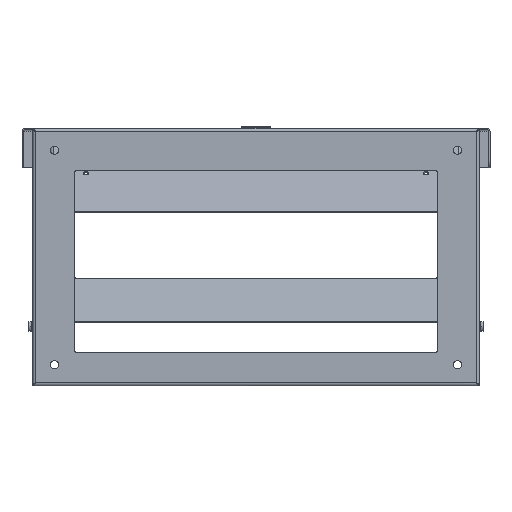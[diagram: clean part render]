
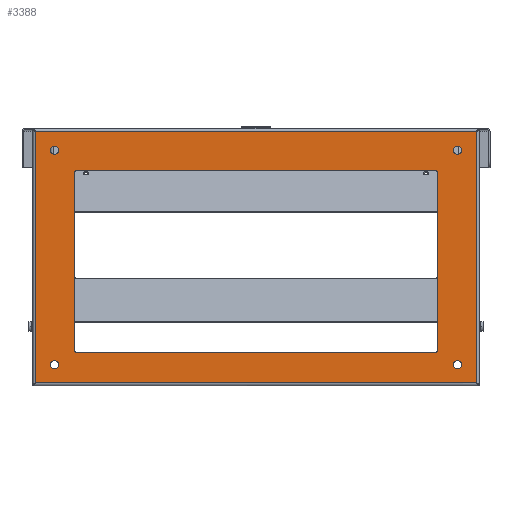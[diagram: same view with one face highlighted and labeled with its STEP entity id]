
A CAD part, front view. The second image highlights one B-rep face of the part: STEP entity #3388.
In plain terms, the highlighted planar face has unit normal (0, -1, 0).
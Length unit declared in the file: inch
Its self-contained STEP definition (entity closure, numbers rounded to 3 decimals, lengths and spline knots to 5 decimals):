
#183=DIRECTION('',(0.,0.,1.));
#184=VECTOR('',#183,9.68225);
#185=CARTESIAN_POINT('',(8.48175,-0.85938,-4.84113));
#186=LINE('',#185,#184);
#245=DIRECTION('',(-1.,0.,0.));
#246=VECTOR('',#245,13.8125);
#247=CARTESIAN_POINT('',(6.90625,-0.85938,3.32813));
#248=LINE('',#247,#246);
#252=DIRECTION('',(0.,0.,-1.));
#253=VECTOR('',#252,6.875);
#254=CARTESIAN_POINT('',(-6.96875,-0.85938,3.26563));
#255=LINE('',#254,#253);
#259=DIRECTION('',(1.,0.,0.));
#260=VECTOR('',#259,13.8125);
#261=CARTESIAN_POINT('',(-6.90625,-0.85938,-3.67188));
#262=LINE('',#261,#260);
#266=DIRECTION('',(0.,0.,1.));
#267=VECTOR('',#266,6.875);
#268=CARTESIAN_POINT('',(6.96875,-0.85938,-3.60938));
#269=LINE('',#268,#267);
#273=CARTESIAN_POINT('',(7.75,-0.85938,-4.14063));
#274=DIRECTION('',(0.,1.,0.));
#275=DIRECTION('',(1.,0.,0.));
#276=AXIS2_PLACEMENT_3D('',#273,#274,#275);
#281=CARTESIAN_POINT('',(7.75,-0.85938,-4.14063));
#282=DIRECTION('',(0.,1.,0.));
#283=DIRECTION('',(-1.,0.,0.));
#284=AXIS2_PLACEMENT_3D('',#281,#282,#283);
#289=CARTESIAN_POINT('',(-7.75,-0.85938,-4.14063));
#290=DIRECTION('',(0.,1.,0.));
#291=DIRECTION('',(1.,0.,0.));
#292=AXIS2_PLACEMENT_3D('',#289,#290,#291);
#297=CARTESIAN_POINT('',(-7.75,-0.85938,-4.14063));
#298=DIRECTION('',(0.,1.,0.));
#299=DIRECTION('',(-1.,0.,0.));
#300=AXIS2_PLACEMENT_3D('',#297,#298,#299);
#305=CARTESIAN_POINT('',(-7.75,-0.85938,4.10938));
#306=DIRECTION('',(0.,1.,0.));
#307=DIRECTION('',(1.,0.,0.));
#308=AXIS2_PLACEMENT_3D('',#305,#306,#307);
#313=CARTESIAN_POINT('',(-7.75,-0.85938,4.10938));
#314=DIRECTION('',(0.,1.,0.));
#315=DIRECTION('',(-1.,0.,0.));
#316=AXIS2_PLACEMENT_3D('',#313,#314,#315);
#321=CARTESIAN_POINT('',(7.75,-0.85938,4.10938));
#322=DIRECTION('',(0.,1.,0.));
#323=DIRECTION('',(1.,0.,0.));
#324=AXIS2_PLACEMENT_3D('',#321,#322,#323);
#329=CARTESIAN_POINT('',(7.75,-0.85938,4.10938));
#330=DIRECTION('',(0.,1.,0.));
#331=DIRECTION('',(-1.,0.,0.));
#332=AXIS2_PLACEMENT_3D('',#329,#330,#331);
#351=CARTESIAN_POINT('',(6.90625,-0.85938,3.26563));
#352=DIRECTION('',(0.,1.,0.));
#353=DIRECTION('',(0.,0.,1.));
#354=AXIS2_PLACEMENT_3D('',#351,#352,#353);
#381=CARTESIAN_POINT('',(6.90625,-0.85938,-3.60938));
#382=DIRECTION('',(0.,1.,0.));
#383=DIRECTION('',(1.,0.,0.));
#384=AXIS2_PLACEMENT_3D('',#381,#382,#383);
#411=CARTESIAN_POINT('',(-6.90625,-0.85938,-3.60938));
#412=DIRECTION('',(0.,1.,0.));
#413=DIRECTION('',(0.,0.,-1.));
#414=AXIS2_PLACEMENT_3D('',#411,#412,#413);
#441=CARTESIAN_POINT('',(-6.90625,-0.85938,3.26563));
#442=DIRECTION('',(0.,1.,0.));
#443=DIRECTION('',(-1.,0.,0.));
#444=AXIS2_PLACEMENT_3D('',#441,#442,#443);
#825=DIRECTION('',(0.,0.,1.));
#826=VECTOR('',#825,9.68225);
#827=CARTESIAN_POINT('',(-8.48175,-0.85938,-4.84113));
#828=LINE('',#827,#826);
#1508=DIRECTION('',(1.,0.,0.));
#1509=VECTOR('',#1508,16.9635);
#1510=CARTESIAN_POINT('',(-8.48175,-0.85938,4.84113));
#1511=LINE('',#1510,#1509);
#2235=DIRECTION('',(1.,0.,0.));
#2236=VECTOR('',#2235,16.9635);
#2237=CARTESIAN_POINT('',(-8.48175,-0.85938,-4.84113));
#2238=LINE('',#2237,#2236);
#2580=CARTESIAN_POINT('',(-8.48175,-0.85938,-4.84113));
#2581=CARTESIAN_POINT('',(-8.48175,-0.85938,4.84113));
#2582=VERTEX_POINT('',#2580);
#2583=VERTEX_POINT('',#2581);
#2584=CARTESIAN_POINT('',(8.48175,-0.85938,-4.84113));
#2585=CARTESIAN_POINT('',(8.48175,-0.85938,4.84113));
#2586=VERTEX_POINT('',#2584);
#2587=VERTEX_POINT('',#2585);
#2700=CARTESIAN_POINT('',(7.90625,-0.85938,-4.14063));
#2701=CARTESIAN_POINT('',(7.59375,-0.85938,-4.14063));
#2702=VERTEX_POINT('',#2700);
#2703=VERTEX_POINT('',#2701);
#2704=CARTESIAN_POINT('',(-7.59375,-0.85938,-4.14063));
#2705=CARTESIAN_POINT('',(-7.90625,-0.85938,-4.14063));
#2706=VERTEX_POINT('',#2704);
#2707=VERTEX_POINT('',#2705);
#2708=CARTESIAN_POINT('',(-7.59375,-0.85938,4.10938));
#2709=CARTESIAN_POINT('',(-7.90625,-0.85938,4.10938));
#2710=VERTEX_POINT('',#2708);
#2711=VERTEX_POINT('',#2709);
#2712=CARTESIAN_POINT('',(7.90625,-0.85938,4.10938));
#2713=CARTESIAN_POINT('',(7.59375,-0.85938,4.10938));
#2714=VERTEX_POINT('',#2712);
#2715=VERTEX_POINT('',#2713);
#2732=CARTESIAN_POINT('',(6.90625,-0.85938,3.32813));
#2733=CARTESIAN_POINT('',(-6.90625,-0.85938,3.32813));
#2734=VERTEX_POINT('',#2732);
#2735=VERTEX_POINT('',#2733);
#2736=CARTESIAN_POINT('',(-6.96875,-0.85938,3.26563));
#2737=CARTESIAN_POINT('',(-6.96875,-0.85938,-3.60938));
#2738=VERTEX_POINT('',#2736);
#2739=VERTEX_POINT('',#2737);
#2740=CARTESIAN_POINT('',(-6.90625,-0.85938,-3.67188));
#2741=CARTESIAN_POINT('',(6.90625,-0.85938,-3.67188));
#2742=VERTEX_POINT('',#2740);
#2743=VERTEX_POINT('',#2741);
#2744=CARTESIAN_POINT('',(6.96875,-0.85938,-3.60938));
#2745=CARTESIAN_POINT('',(6.96875,-0.85938,3.26563));
#2746=VERTEX_POINT('',#2744);
#2747=VERTEX_POINT('',#2745);
#3332=CARTESIAN_POINT('',(-8.59375,-0.85938,-4.95313));
#3333=DIRECTION('',(0.,-1.,0.));
#3334=DIRECTION('',(1.,0.,0.));
#3335=AXIS2_PLACEMENT_3D('',#3332,#3333,#3334);
#3336=PLANE('',#3335);
#3338=ORIENTED_EDGE('',*,*,#3337,.F.);
#3340=ORIENTED_EDGE('',*,*,#3339,.T.);
#3342=ORIENTED_EDGE('',*,*,#3341,.T.);
#3343=ORIENTED_EDGE('',*,*,#3321,.F.);
#3344=EDGE_LOOP('',(#3338,#3340,#3342,#3343));
#3345=FACE_OUTER_BOUND('',#3344,.F.);
#3347=ORIENTED_EDGE('',*,*,#3346,.F.);
#3349=ORIENTED_EDGE('',*,*,#3348,.F.);
#3350=EDGE_LOOP('',(#3347,#3349));
#3351=FACE_BOUND('',#3350,.F.);
#3353=ORIENTED_EDGE('',*,*,#3352,.F.);
#3355=ORIENTED_EDGE('',*,*,#3354,.F.);
#3356=EDGE_LOOP('',(#3353,#3355));
#3357=FACE_BOUND('',#3356,.F.);
#3359=ORIENTED_EDGE('',*,*,#3358,.F.);
#3361=ORIENTED_EDGE('',*,*,#3360,.F.);
#3362=EDGE_LOOP('',(#3359,#3361));
#3363=FACE_BOUND('',#3362,.F.);
#3365=ORIENTED_EDGE('',*,*,#3364,.F.);
#3367=ORIENTED_EDGE('',*,*,#3366,.F.);
#3368=EDGE_LOOP('',(#3365,#3367));
#3369=FACE_BOUND('',#3368,.F.);
#3371=ORIENTED_EDGE('',*,*,#3370,.T.);
#3373=ORIENTED_EDGE('',*,*,#3372,.F.);
#3375=ORIENTED_EDGE('',*,*,#3374,.T.);
#3377=ORIENTED_EDGE('',*,*,#3376,.F.);
#3379=ORIENTED_EDGE('',*,*,#3378,.T.);
#3381=ORIENTED_EDGE('',*,*,#3380,.F.);
#3383=ORIENTED_EDGE('',*,*,#3382,.T.);
#3385=ORIENTED_EDGE('',*,*,#3384,.F.);
#3386=EDGE_LOOP('',(#3371,#3373,#3375,#3377,#3379,#3381,#3383,#3385));
#3387=FACE_BOUND('',#3386,.F.);
#277=CIRCLE('',#276,0.15625);
#285=CIRCLE('',#284,0.15625);
#293=CIRCLE('',#292,0.15625);
#301=CIRCLE('',#300,0.15625);
#309=CIRCLE('',#308,0.15625);
#317=CIRCLE('',#316,0.15625);
#325=CIRCLE('',#324,0.15625);
#333=CIRCLE('',#332,0.15625);
#355=CIRCLE('',#354,0.0625);
#385=CIRCLE('',#384,0.0625);
#415=CIRCLE('',#414,0.0625);
#445=CIRCLE('',#444,0.0625);
#3321=EDGE_CURVE('',#2586,#2587,#186,.T.);
#3337=EDGE_CURVE('',#2582,#2586,#2238,.T.);
#3339=EDGE_CURVE('',#2582,#2583,#828,.T.);
#3341=EDGE_CURVE('',#2583,#2587,#1511,.T.);
#3346=EDGE_CURVE('',#2702,#2703,#277,.T.);
#3348=EDGE_CURVE('',#2703,#2702,#285,.T.);
#3352=EDGE_CURVE('',#2706,#2707,#293,.T.);
#3354=EDGE_CURVE('',#2707,#2706,#301,.T.);
#3358=EDGE_CURVE('',#2710,#2711,#309,.T.);
#3360=EDGE_CURVE('',#2711,#2710,#317,.T.);
#3364=EDGE_CURVE('',#2714,#2715,#325,.T.);
#3366=EDGE_CURVE('',#2715,#2714,#333,.T.);
#3370=EDGE_CURVE('',#2734,#2735,#248,.T.);
#3372=EDGE_CURVE('',#2738,#2735,#445,.T.);
#3374=EDGE_CURVE('',#2738,#2739,#255,.T.);
#3376=EDGE_CURVE('',#2742,#2739,#415,.T.);
#3378=EDGE_CURVE('',#2742,#2743,#262,.T.);
#3380=EDGE_CURVE('',#2746,#2743,#385,.T.);
#3382=EDGE_CURVE('',#2746,#2747,#269,.T.);
#3384=EDGE_CURVE('',#2734,#2747,#355,.T.);
#3388=ADVANCED_FACE('',(#3345,#3351,#3357,#3363,#3369,#3387),#3336,.T.);
